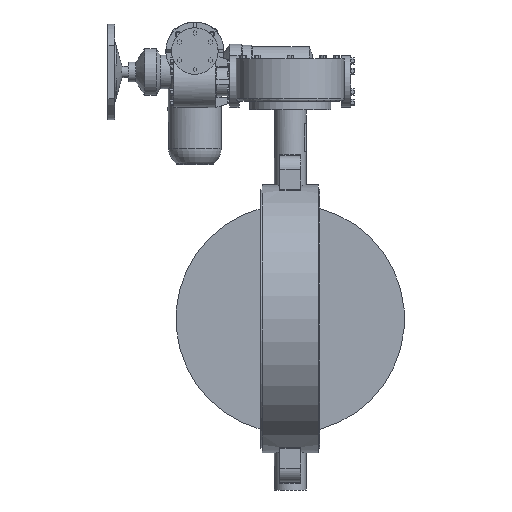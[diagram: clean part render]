
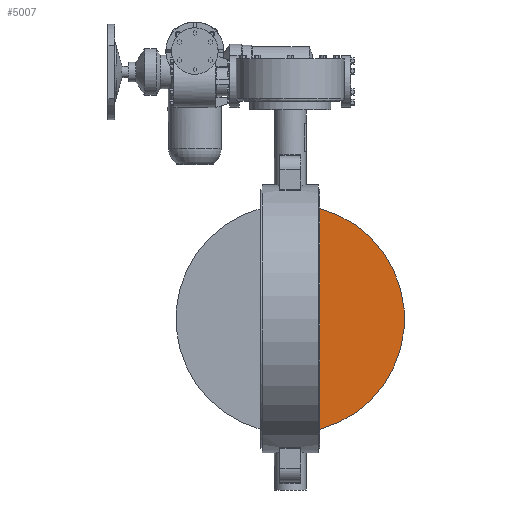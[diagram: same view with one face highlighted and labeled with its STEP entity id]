
A CAD part, front view. The second image highlights one B-rep face of the part: STEP entity #5007.
In plain terms, the highlighted planar face has unit normal (0, -1, 0).
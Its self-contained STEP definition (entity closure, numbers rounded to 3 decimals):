
#5007=ADVANCED_FACE('',(#9367),#9369,.T.);
#9367=FACE_BOUND('',#9368,.T.);
#9368=EDGE_LOOP('',(#12062,#12063));
#9369=PLANE('',#9370);
#9370=AXIS2_PLACEMENT_3D('',#9371,#9372,#9373);
#9371=CARTESIAN_POINT('',(0.,-7.5,0.));
#9372=DIRECTION('',(0.,-1.,0.));
#9373=DIRECTION('',(0.,0.,1.));
#12062=ORIENTED_EDGE('',*,*,#13399,.T.);
#12063=ORIENTED_EDGE('',*,*,#13407,.T.);
#13399=EDGE_CURVE('',#15646,#15643,#15647,.T.);
#13407=EDGE_CURVE('',#15643,#15646,#15660,.T.);
#15643=VERTEX_POINT('',#23237);
#15646=VERTEX_POINT('',#23281);
#15647=LINE('',#23282,#23283);
#15660=CIRCLE('',#23429,245.82);
#23237=CARTESIAN_POINT('',(22.798,-7.5,-244.761));
#23281=CARTESIAN_POINT('',(22.798,-7.5,244.761));
#23282=CARTESIAN_POINT('',(22.798,-7.5,244.761));
#23283=VECTOR('',#23284,1.);
#23284=DIRECTION('',(0.,0.,-1.));
#23429=AXIS2_PLACEMENT_3D('',#23430,#23431,#23432);
#23430=CARTESIAN_POINT('',(0.,-7.5,0.));
#23431=DIRECTION('',(0.,-1.,0.));
#23432=DIRECTION('',(0.093,0.,-0.996));
